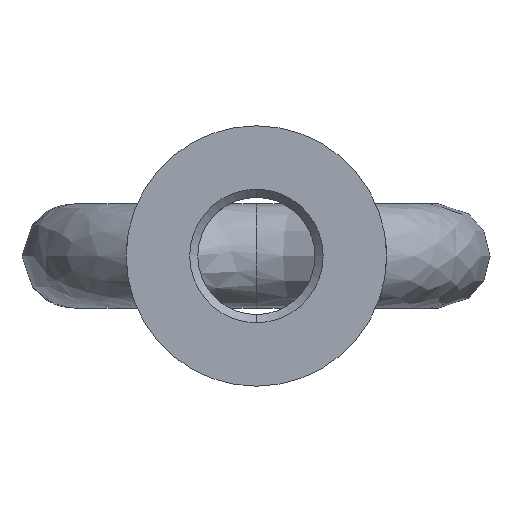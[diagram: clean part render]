
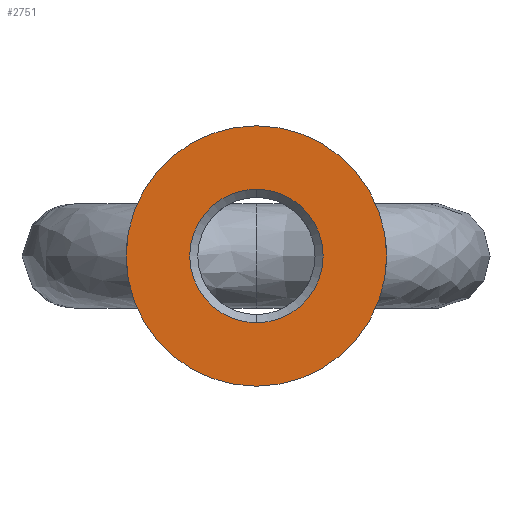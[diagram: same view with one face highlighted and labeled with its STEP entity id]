
A CAD part, front view. The second image highlights one B-rep face of the part: STEP entity #2751.
In plain terms, the highlighted planar face has unit normal (0, -1, 0).
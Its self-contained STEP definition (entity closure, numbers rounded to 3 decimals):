
#111 = ORIENTED_EDGE ( 'NONE', *, *, #1143, .F. ) ;
#169 = EDGE_CURVE ( 'NONE', #810, #2609, #1045, .T. ) ;
#403 = AXIS2_PLACEMENT_3D ( 'NONE', #958, #2222, #2962 ) ;
#583 = DIRECTION ( 'NONE',  ( 0., 0., 1. ) ) ;
#625 = CIRCLE ( 'NONE', #403, 10.25 ) ;
#647 = FACE_BOUND ( 'NONE', #2334, .T. ) ;
#700 = CARTESIAN_POINT ( 'NONE',  ( 0., 0., 20. ) ) ;
#810 = VERTEX_POINT ( 'NONE', #700 ) ;
#925 = CARTESIAN_POINT ( 'NONE',  ( 0., 0., 0. ) ) ;
#940 = DIRECTION ( 'NONE',  ( 0., 0., -1. ) ) ;
#958 = CARTESIAN_POINT ( 'NONE',  ( 0., 0., 0. ) ) ;
#971 = CARTESIAN_POINT ( 'NONE',  ( 0., 0., 0. ) ) ;
#1020 = CARTESIAN_POINT ( 'NONE',  ( 0., 0., -10.25 ) ) ;
#1045 = CIRCLE ( 'NONE', #2098, 20. ) ;
#1047 = EDGE_CURVE ( 'NONE', #3057, #3116, #625, .T. ) ;
#1074 = ORIENTED_EDGE ( 'NONE', *, *, #169, .F. ) ;
#1139 = PLANE ( 'NONE',  #1631 ) ;
#1143 = EDGE_CURVE ( 'NONE', #2609, #810, #2506, .T. ) ;
#1399 = CARTESIAN_POINT ( 'NONE',  ( 0., 0., -20. ) ) ;
#1631 = AXIS2_PLACEMENT_3D ( 'NONE', #925, #2159, #2926 ) ;
#1700 = CARTESIAN_POINT ( 'NONE',  ( 0., 0., 0. ) ) ;
#1704 = DIRECTION ( 'NONE',  ( 0., 0., 1. ) ) ;
#1868 = ORIENTED_EDGE ( 'NONE', *, *, #1047, .T. ) ;
#1889 = AXIS2_PLACEMENT_3D ( 'NONE', #971, #1979, #1704 ) ;
#1919 = FACE_OUTER_BOUND ( 'NONE', #2897, .T. ) ;
#1938 = CIRCLE ( 'NONE', #2457, 10.25 ) ;
#1979 = DIRECTION ( 'NONE',  ( 0., 1., 0. ) ) ;
#2082 = DIRECTION ( 'NONE',  ( 0., 1., 0. ) ) ;
#2098 = AXIS2_PLACEMENT_3D ( 'NONE', #2594, #2082, #583 ) ;
#2159 = DIRECTION ( 'NONE',  ( 0., -1., 0. ) ) ;
#2188 = DIRECTION ( 'NONE',  ( 0., 1., 0. ) ) ;
#2222 = DIRECTION ( 'NONE',  ( 0., 1., 0. ) ) ;
#2287 = ORIENTED_EDGE ( 'NONE', *, *, #2804, .T. ) ;
#2334 = EDGE_LOOP ( 'NONE', ( #1868, #2287 ) ) ;
#2457 = AXIS2_PLACEMENT_3D ( 'NONE', #1700, #2188, #940 ) ;
#2506 = CIRCLE ( 'NONE', #1889, 20. ) ;
#2594 = CARTESIAN_POINT ( 'NONE',  ( 0., 0., 0. ) ) ;
#2609 = VERTEX_POINT ( 'NONE', #1399 ) ;
#2751 = ADVANCED_FACE ( 'NONE', ( #647, #1919 ), #1139, .T. ) ;
#2804 = EDGE_CURVE ( 'NONE', #3116, #3057, #1938, .T. ) ;
#2897 = EDGE_LOOP ( 'NONE', ( #111, #1074 ) ) ;
#2926 = DIRECTION ( 'NONE',  ( 0., 0., -1. ) ) ;
#2962 = DIRECTION ( 'NONE',  ( 0., 0., -1. ) ) ;
#3030 = CARTESIAN_POINT ( 'NONE',  ( 0., 0., 10.25 ) ) ;
#3057 = VERTEX_POINT ( 'NONE', #1020 ) ;
#3116 = VERTEX_POINT ( 'NONE', #3030 ) ;
